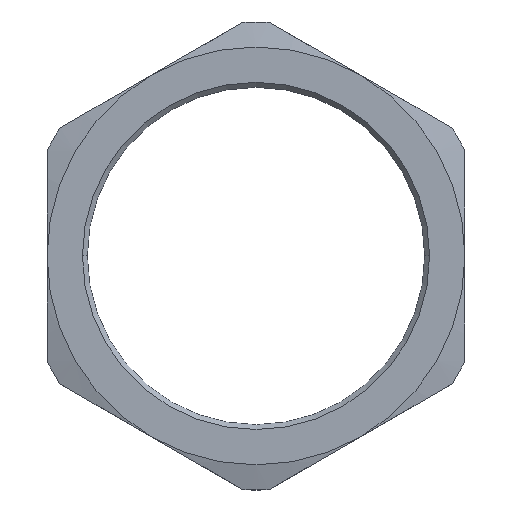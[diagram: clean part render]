
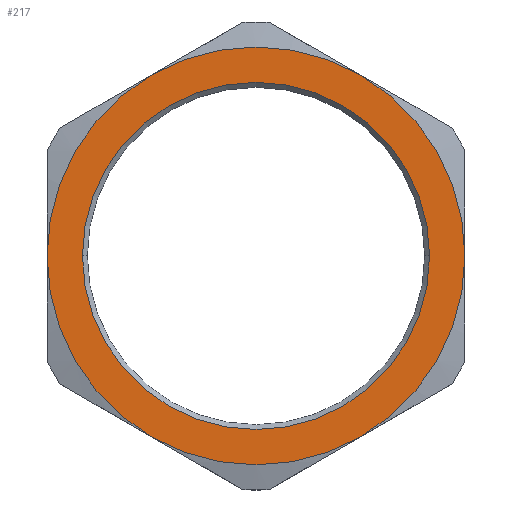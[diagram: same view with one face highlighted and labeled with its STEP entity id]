
A CAD part, top view. The second image highlights one B-rep face of the part: STEP entity #217.
In plain terms, the highlighted planar face has unit normal (0, 0, 1).
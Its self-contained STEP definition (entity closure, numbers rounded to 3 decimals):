
#38 = EDGE_CURVE ( 'NONE', #119, #40, #720, .T. ) ;
#39 = ORIENTED_EDGE ( 'NONE', *, *, #280, .T. ) ;
#40 = VERTEX_POINT ( 'NONE', #721 ) ;
#67 = ORIENTED_EDGE ( 'NONE', *, *, #68, .F. ) ;
#68 = EDGE_CURVE ( 'NONE', #108, #105, #796, .T. ) ;
#69 = ORIENTED_EDGE ( 'NONE', *, *, #107, .F. ) ;
#72 = ORIENTED_EDGE ( 'NONE', *, *, #73, .T. ) ;
#73 = EDGE_CURVE ( 'NONE', #287, #119, #967, .T. ) ;
#74 = EDGE_LOOP ( 'NONE', ( #67, #69 ) ) ;
#75 = VERTEX_POINT ( 'NONE', #962 ) ;
#76 = ORIENTED_EDGE ( 'NONE', *, *, #102, .T. ) ;
#83 = EDGE_CURVE ( 'NONE', #75, #84, #950, .T. ) ;
#84 = VERTEX_POINT ( 'NONE', #945 ) ;
#85 = VERTEX_POINT ( 'NONE', #944 ) ;
#97 = ORIENTED_EDGE ( 'NONE', *, *, #83, .T. ) ;
#102 = EDGE_CURVE ( 'NONE', #84, #85, #980, .T. ) ;
#105 = VERTEX_POINT ( 'NONE', #972 ) ;
#107 = EDGE_CURVE ( 'NONE', #105, #108, #971, .T. ) ;
#108 = VERTEX_POINT ( 'NONE', #929 ) ;
#119 = VERTEX_POINT ( 'NONE', #910 ) ;
#215 = EDGE_LOOP ( 'NONE', ( #216, #39, #97, #76, #285, #72 ) ) ;
#216 = ORIENTED_EDGE ( 'NONE', *, *, #38, .T. ) ;
#217 = ADVANCED_FACE ( 'NONE', ( #1260, #1254 ), #1253, .F. ) ;
#280 = EDGE_CURVE ( 'NONE', #40, #75, #1321, .T. ) ;
#285 = ORIENTED_EDGE ( 'NONE', *, *, #286, .T. ) ;
#286 = EDGE_CURVE ( 'NONE', #85, #287, #1317, .T. ) ;
#287 = VERTEX_POINT ( 'NONE', #1312 ) ;
#716 = DIRECTION ( 'NONE',  ( 1., 0., 0. ) ) ;
#717 = DIRECTION ( 'NONE',  ( 0., 0., 1. ) ) ;
#718 = CARTESIAN_POINT ( 'NONE',  ( 0., 0., 0. ) ) ;
#719 = AXIS2_PLACEMENT_3D ( 'NONE', #718, #717, #716 ) ;
#720 = CIRCLE ( 'NONE', #719, 32.5 ) ;
#721 = CARTESIAN_POINT ( 'NONE',  ( 16.25, 28.146, 0. ) ) ;
#792 = DIRECTION ( 'NONE',  ( 1., 0., 0. ) ) ;
#793 = DIRECTION ( 'NONE',  ( 0., 0., 1. ) ) ;
#794 = CARTESIAN_POINT ( 'NONE',  ( 0., 0., 0. ) ) ;
#795 = AXIS2_PLACEMENT_3D ( 'NONE', #794, #793, #792 ) ;
#796 = CIRCLE ( 'NONE', #795, 27. ) ;
#910 = CARTESIAN_POINT ( 'NONE',  ( 32.5, 0., 0. ) ) ;
#929 = CARTESIAN_POINT ( 'NONE',  ( 27., 0., 0. ) ) ;
#930 = DIRECTION ( 'NONE',  ( 1., 0., 0. ) ) ;
#944 = CARTESIAN_POINT ( 'NONE',  ( -16.25, -28.146, 0. ) ) ;
#945 = CARTESIAN_POINT ( 'NONE',  ( -32.5, 0., 0. ) ) ;
#946 = DIRECTION ( 'NONE',  ( 1., 0., 0. ) ) ;
#947 = DIRECTION ( 'NONE',  ( 0., 0., 1. ) ) ;
#948 = CARTESIAN_POINT ( 'NONE',  ( 0., 0., 0. ) ) ;
#949 = AXIS2_PLACEMENT_3D ( 'NONE', #948, #947, #946 ) ;
#950 = CIRCLE ( 'NONE', #949, 32.5 ) ;
#962 = CARTESIAN_POINT ( 'NONE',  ( -16.25, 28.146, 0. ) ) ;
#963 = DIRECTION ( 'NONE',  ( 1., 0., 0. ) ) ;
#964 = DIRECTION ( 'NONE',  ( 0., 0., 1. ) ) ;
#965 = CARTESIAN_POINT ( 'NONE',  ( 0., 0., 0. ) ) ;
#966 = AXIS2_PLACEMENT_3D ( 'NONE', #965, #964, #963 ) ;
#967 = CIRCLE ( 'NONE', #966, 32.5 ) ;
#968 = DIRECTION ( 'NONE',  ( 0., 0., 1. ) ) ;
#969 = CARTESIAN_POINT ( 'NONE',  ( 0., 0., 0. ) ) ;
#970 = AXIS2_PLACEMENT_3D ( 'NONE', #969, #968, #930 ) ;
#971 = CIRCLE ( 'NONE', #970, 27. ) ;
#972 = CARTESIAN_POINT ( 'NONE',  ( -27., 0., 0. ) ) ;
#977 = DIRECTION ( 'NONE',  ( 1., 0., 0. ) ) ;
#978 = DIRECTION ( 'NONE',  ( 0., 0., 1. ) ) ;
#979 = AXIS2_PLACEMENT_3D ( 'NONE', #986, #978, #977 ) ;
#980 = CIRCLE ( 'NONE', #979, 32.5 ) ;
#986 = CARTESIAN_POINT ( 'NONE',  ( 0., 0., 0. ) ) ;
#1249 = DIRECTION ( 'NONE',  ( -1., 0., 0. ) ) ;
#1250 = DIRECTION ( 'NONE',  ( 0., 0., -1. ) ) ;
#1251 = CARTESIAN_POINT ( 'NONE',  ( 0., 0., 0. ) ) ;
#1252 = AXIS2_PLACEMENT_3D ( 'NONE', #1251, #1250, #1249 ) ;
#1253 = PLANE ( 'NONE',  #1252 ) ;
#1254 = FACE_BOUND ( 'NONE', #74, .T. ) ;
#1260 = FACE_OUTER_BOUND ( 'NONE', #215, .T. ) ;
#1312 = CARTESIAN_POINT ( 'NONE',  ( 16.25, -28.146, 0. ) ) ;
#1313 = DIRECTION ( 'NONE',  ( 1., 0., 0. ) ) ;
#1314 = DIRECTION ( 'NONE',  ( 0., 0., 1. ) ) ;
#1315 = CARTESIAN_POINT ( 'NONE',  ( 0., 0., 0. ) ) ;
#1316 = AXIS2_PLACEMENT_3D ( 'NONE', #1315, #1314, #1313 ) ;
#1317 = CIRCLE ( 'NONE', #1316, 32.5 ) ;
#1318 = DIRECTION ( 'NONE',  ( 1., 0., 0. ) ) ;
#1319 = DIRECTION ( 'NONE',  ( 0., 0., 1. ) ) ;
#1320 = AXIS2_PLACEMENT_3D ( 'NONE', #1329, #1319, #1318 ) ;
#1321 = CIRCLE ( 'NONE', #1320, 32.5 ) ;
#1329 = CARTESIAN_POINT ( 'NONE',  ( 0., 0., 0. ) ) ;
